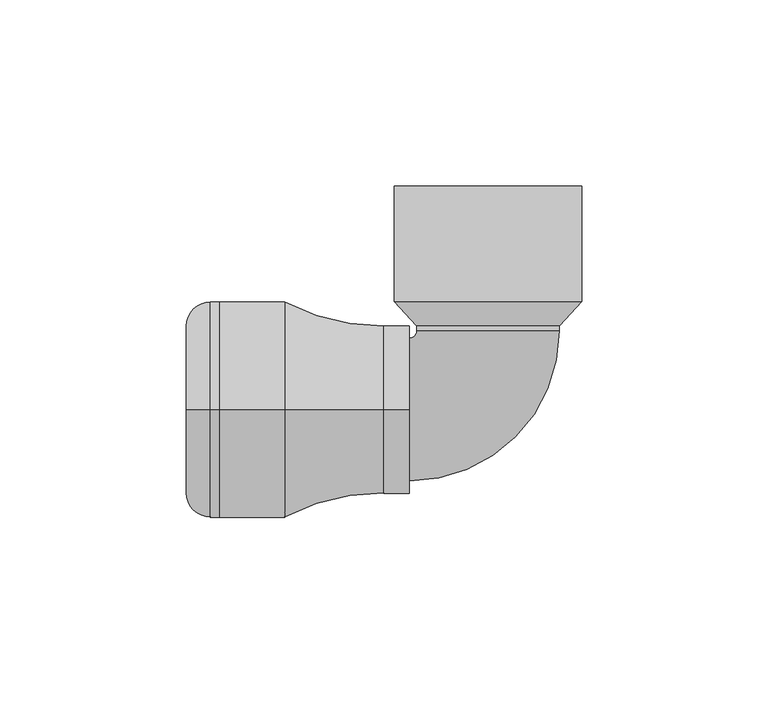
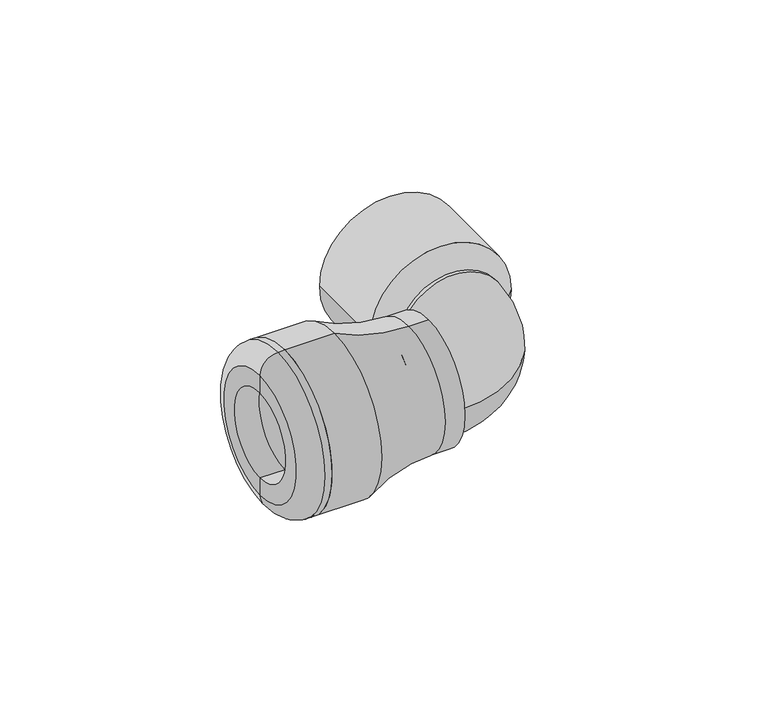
"""IFC4 building model written with IfcOpenShell, lengths in millimetres: pipe fitting geometry, Plumbing_Pipe-Fittings_Plasson_Elbow-90-with-Threaded-Brass-Female-Offtake_1076 : Plumbing_Pipe-Fittings_Plasson_Elbow-90-with-Threaded-Brass-Female-Offtake_1076."""

import ifcopenshell
import ifcopenshell.guid

model = None  # the IFC model being written
_history = None  # IfcOwnerHistory: only IFC2X3 demands one
_inside = {}  # id of a spatial element -> (the spatial element, [elements in it])
_under = {}  # id of a project, library or spatial element -> (it, [spatial elements below it])
_declared = {}  # id of a project -> (the project, [libraries it declares])
_typed = {}  # id of a type object -> (the type object, [elements of that type])
_made_of = {}  # id of a material, layer set ... -> (it, [elements and type objects made of it])


def new_model(schema):
    """Start an empty IFC model of exactly this schema.

    Asked for "IFC4X3", IfcOpenShell would pick the latest addendum, in which some entities
    have other attributes; the version numbers below select the first issue.
    IFC2X3 requires an IfcOwnerHistory on every rooted entity: one is made here for all.
    """
    global model, _history
    if schema == "IFC4X3":
        model = ifcopenshell.file(schema_version=(4, 3, 0, 0))
    else:
        model = ifcopenshell.file(schema=schema)
    _inside.clear()
    _under.clear()
    _declared.clear()
    _typed.clear()
    _made_of.clear()
    _history = None
    if model.schema == "IFC2X3":
        org = make("IfcOrganization", Name="unknown")
        user = make(
            "IfcPersonAndOrganization",
            ThePerson=make("IfcPerson", FamilyName="unknown"),
            TheOrganization=org,
        )
        app = make(
            "IfcApplication",
            ApplicationDeveloper=org,
            Version="unknown",
            ApplicationFullName="unknown",
            ApplicationIdentifier="unknown",
        )
        _history = make(
            "IfcOwnerHistory",
            OwningUser=user,
            OwningApplication=app,
            ChangeAction="ADDED",
            CreationDate=0,
        )
    return model


def make(cls, **values):
    """One entity of the class cls with the attributes given. An attribute that is None is left unset."""
    return model.create_entity(
        cls, **{name: value for name, value in values.items() if value is not None}
    )


def rooted(cls, **values):
    """An entity with a GlobalId (a new one), such as an element, a storey or a relation."""
    return make(cls, GlobalId=ifcopenshell.guid.new(), OwnerHistory=_history, **values)


def si_unit(unit_type, name, prefix=None):
    """IfcSIUnit, for example si_unit("LENGTHUNIT", "METRE", prefix="MILLI")."""
    return make("IfcSIUnit", UnitType=unit_type, Prefix=prefix, Name=name)


def assignment(units):
    """IfcUnitAssignment: the units of a project."""
    return None if units is None else make("IfcUnitAssignment", Units=units)


def point(xyz):
    """IfcCartesianPoint."""
    return None if xyz is None else make("IfcCartesianPoint", Coordinates=xyz)


def direction(xyz):
    """IfcDirection."""
    return None if xyz is None else make("IfcDirection", DirectionRatios=xyz)


def frame(location, z_axis=None, x_axis=None):
    """IfcAxis2Placement3D, a coordinate frame: its origin and axes. An axis left out is left unset."""
    return make(
        "IfcAxis2Placement3D",
        Location=point(location),
        Axis=direction(z_axis),
        RefDirection=direction(x_axis),
    )


def origin():
    """The frame at (0, 0, 0) with its axes left unset."""
    return frame((0.0, 0.0, 0.0))


def place(relative_to, where):
    """IfcLocalPlacement: puts the frame where relative to a parent placement (None: the world)."""
    return make(
        "IfcLocalPlacement", PlacementRelTo=relative_to, RelativePlacement=where
    )


def context(
    kind, dimensions, precision=None, world=None, true_north=None, identifier=None
):
    """IfcGeometricRepresentationContext, for example the 3D "Model" context."""
    return make(
        "IfcGeometricRepresentationContext",
        ContextIdentifier=identifier,
        ContextType=kind,
        CoordinateSpaceDimension=dimensions,
        Precision=precision,
        WorldCoordinateSystem=world,
        TrueNorth=true_north,
    )


def project(units=None, contexts=None):
    """IfcProject with its units and contexts."""
    return rooted(
        "IfcProject",
        Name="project",
        RepresentationContexts=contexts,
        UnitsInContext=assignment(units),
    )


def spatial(cls, under=None, at=None, **own):
    """A site, building, storey or space (cls), placed at a placement, below another one or the project."""
    s = rooted(cls, ObjectPlacement=at, **own)
    if under is not None:
        _under.setdefault(under.id(), (under, []))[1].append(s)
    return s


def polyline(points):
    """IfcPolyline through the points."""
    return make("IfcPolyline", Points=[point(p) for p in points])


def circle_curve(where, radius):
    """IfcCircle in the frame where."""
    return make("IfcCircle", Position=where, Radius=radius)


def ellipse_curve(where, semi_axis1, semi_axis2):
    """IfcEllipse in the frame where."""
    return make(
        "IfcEllipse", Position=where, SemiAxis1=semi_axis1, SemiAxis2=semi_axis2
    )


def trimmed(basis, trim1, trim2, sense, master):
    """IfcTrimmedCurve: the piece of a basis curve between two trims."""
    return make(
        "IfcTrimmedCurve",
        BasisCurve=basis,
        Trim1=trim1,
        Trim2=trim2,
        SenseAgreement=sense,
        MasterRepresentation=master,
    )


def shape(context_of_items, identifier, shape_type, items):
    """IfcShapeRepresentation: the items that make up one representation, for example the "Body"."""
    return make(
        "IfcShapeRepresentation",
        ContextOfItems=context_of_items,
        RepresentationIdentifier=identifier,
        RepresentationType=shape_type,
        Items=items,
    )


def source(mapping_origin, context_of_items, identifier, shape_type, items):
    """IfcRepresentationMap: a shape defined once, which mapped items show again and again."""
    return make(
        "IfcRepresentationMap",
        MappingOrigin=mapping_origin,
        MappedRepresentation=shape(context_of_items, identifier, shape_type, items),
    )


def transform(
    local_origin,
    x_axis=None,
    y_axis=None,
    z_axis=None,
    scale=None,
    scale2=None,
    scale3=None,
    uniform=True,
):
    """IfcCartesianTransformationOperator3D, or its non-uniform kind. x_axis, y_axis, z_axis: its Axis1, 2, 3."""
    if uniform:
        return make(
            "IfcCartesianTransformationOperator3D",
            Axis1=direction(x_axis),
            Axis2=direction(y_axis),
            LocalOrigin=point(local_origin),
            Scale=scale,
            Axis3=direction(z_axis),
        )
    return make(
        "IfcCartesianTransformationOperator3DnonUniform",
        Axis1=direction(x_axis),
        Axis2=direction(y_axis),
        LocalOrigin=point(local_origin),
        Scale=scale,
        Axis3=direction(z_axis),
        Scale2=scale2,
        Scale3=scale3,
    )


def mapped(mapping_source, mapping_target):
    """IfcMappedItem: shows the shape of a source again, moved by a transform."""
    return make(
        "IfcMappedItem", MappingSource=mapping_source, MappingTarget=mapping_target
    )


def made_of(thing, what):
    """Note that an element or type object is made of a material, layer set ...; save() writes the relation."""
    if what is not None:
        _made_of.setdefault(what.id(), (what, []))[1].append(thing)
    return thing


def element(
    cls,
    number,
    at=None,
    inside=None,
    cuts=None,
    type_object=None,
    material=None,
    context=None,
    identifier="Body",
    shape_type=None,
    held_by="IfcProductDefinitionShape",
    body=None,
    shapes=None,
    **own,
):
    """One element of the class cls, such as IfcWall. Its Tag is "e" and its number.

    at: its placement. inside: the storey or other place that contains it. cuts: it is an
    opening in that element (IfcRelVoidsElement). A single representation is given by context,
    identifier, shape_type and body (its items); several are given by shapes. held_by: the class
    of the entity that holds the representations. save() writes the other relations.
    """
    e = rooted(cls, Tag="e%d" % number, ObjectPlacement=at, **own)
    if body is not None:
        shapes = [shape(context, identifier, shape_type, body)]
    if shapes is not None:
        e.Representation = make(held_by, Representations=shapes)
    if inside is not None:
        _inside.setdefault(inside.id(), (inside, []))[1].append(e)
    if cuts is not None:
        rooted(
            "IfcRelVoidsElement", RelatingBuildingElement=cuts, RelatedOpeningElement=e
        )
    if type_object is not None:
        _typed.setdefault(type_object.id(), (type_object, []))[1].append(e)
    return made_of(e, material)


def aggregate(whole, parts):
    """IfcRelAggregates: a whole, such as a stair, and the parts it consists of."""
    return rooted("IfcRelAggregates", RelatingObject=whole, RelatedObjects=parts)


def save(model, path):
    """Write the relations noted so far, then the file.

    IfcRelAggregates (storeys below a building ...), IfcRelContainedInSpatialStructure (elements
    in a storey), IfcRelDefinesByType, IfcRelAssociatesMaterial and IfcRelDeclares: one each for
    every whole, place, type object, material and project.
    """
    for whole, parts in _under.values():
        aggregate(whole, parts)
    for where, things in _inside.values():
        rooted(
            "IfcRelContainedInSpatialStructure",
            RelatedElements=things,
            RelatingStructure=where,
        )
    for kind, things in _typed.values():
        rooted("IfcRelDefinesByType", RelatedObjects=things, RelatingType=kind)
    for what, things in _made_of.values():
        rooted("IfcRelAssociatesMaterial", RelatedObjects=things, RelatingMaterial=what)
    for by, libraries in _declared.values():
        rooted("IfcRelDeclares", RelatingContext=by, RelatedDefinitions=libraries)
    model.write(path)


def plane_surface(at):
    """IfcPlane: the flat surface through the origin of the frame at, square to its z axis."""
    return make("IfcPlane", Position=at)


def cylinder_surface(at, radius):
    """IfcCylindricalSurface: all points at the distance radius from the z axis of the frame at."""
    return make("IfcCylindricalSurface", Position=at, Radius=radius)


def revolved_surface(curve, axis_point, axis_direction):
    """IfcSurfaceOfRevolution: the curve turned about the line through axis_point along axis_direction."""
    return make(
        "IfcSurfaceOfRevolution",
        SweptCurve=make("IfcArbitraryOpenProfileDef", ProfileType="CURVE", Curve=curve),
        AxisPosition=make("IfcAxis1Placement", Location=point(axis_point), Axis=direction(axis_direction)),
    )


def advanced_brep(points, edges, surfaces, faces):
    """IfcAdvancedBrep: a solid bounded by faces that lie on surfaces and meet in shared edges.

    An edge is (start, end): straight between two places in points (the first is 0);
    or (start, end, curve); or (start, end, curve, False) where it runs against its curve.
    A face is (place in surfaces, loops), or (place, loops, False) where it looks against
    its surface's normal. A loop lists edges by number (the first is 1), with a minus sign
    where the edge is run from its end to its start. The first loop is the outer one.
    """
    corners = [point(p) for p in points]
    vertices = [make("IfcVertexPoint", VertexGeometry=c) for c in corners]
    made = []
    for start, end, *more in edges:
        made.append(
            make(
                "IfcEdgeCurve",
                EdgeStart=vertices[start],
                EdgeEnd=vertices[end],
                EdgeGeometry=more[0] if more else make("IfcPolyline", Points=[corners[start], corners[end]]),
                SameSense=more[1] if len(more) > 1 else True,
            )
        )
    hull = []
    for where, loops, *sense in faces:
        bounds = []
        for j, loop in enumerate(loops):
            ring = [make("IfcOrientedEdge", EdgeElement=made[abs(k) - 1], Orientation=k > 0) for k in loop]
            bounds.append(
                make(
                    "IfcFaceOuterBound" if j == 0 else "IfcFaceBound",
                    Bound=make("IfcEdgeLoop", EdgeList=ring),
                    Orientation=True,
                )
            )
        hull.append(make("IfcAdvancedFace", Bounds=bounds, FaceSurface=surfaces[where], SameSense=sense[0] if sense else True))
    return make("IfcAdvancedBrep", Outer=make("IfcClosedShell", CfsFaces=hull))


def pipe_fitting_2faa0685(model_context):
    return source(origin(), model_context, "Body", "AdvancedBrep", [
        advanced_brep(
        [(0.0, 60.0, -17.15), (0.0, 60.0, 17.15), (0.0, 60.0, 15.15), (0.0, 60.0, -15.15), (0.0, 41.0, -15.15), (0.0, 41.0, 15.15), (0.0, 41.0, 17.15), (0.0, 41.0, -17.15)],
        [
            (0, 1, circle_curve(frame((0.0, 60.0, 0.0), z_axis=(0.0, 1.0, 0.0), x_axis=(0.0, 0.0, 1.0)), 17.15)),
            (1, 2),
            (2, 3, circle_curve(frame((0.0, 60.0, 0.0), z_axis=(0.0, -1.0, 0.0), x_axis=(0.0, 0.0, 1.0)), 15.15)),
            (3, 0),
            (1, 0, circle_curve(frame((0.0, 60.0, 0.0), z_axis=(0.0, 1.0, 0.0), x_axis=(0.0, 0.0, 1.0)), 17.15)),
            (3, 2, circle_curve(frame((0.0, 60.0, 0.0), z_axis=(0.0, -1.0, 0.0), x_axis=(0.0, 0.0, 1.0)), 15.15)),
            (4, 5, circle_curve(frame((0.0, 41.0, 0.0), z_axis=(0.0, 1.0, 0.0), x_axis=(0.0, 0.0, 1.0)), 15.15)),
            (5, 6),
            (6, 7, circle_curve(frame((0.0, 41.0, 0.0), z_axis=(0.0, -1.0, 0.0), x_axis=(0.0, 0.0, 1.0)), 17.15)),
            (7, 4),
            (5, 4, circle_curve(frame((0.0, 41.0, 0.0), z_axis=(0.0, 1.0, 0.0), x_axis=(0.0, 0.0, 1.0)), 15.15)),
            (7, 6, circle_curve(frame((0.0, 41.0, 0.0), z_axis=(0.0, -1.0, 0.0), x_axis=(0.0, 0.0, 1.0)), 17.15)),
            (6, 1),
            (0, 7),
            (2, 5),
            (4, 3),
        ],
        [
            plane_surface(frame((0.0, 60.0, 0.0), z_axis=(0.0, 1.0, 0.0), x_axis=(0.0, 0.0, 1.0))),
            plane_surface(frame((0.0, 41.0, 0.0), z_axis=(0.0, -1.0, 0.0), x_axis=(0.0, 0.0, 1.0))),
            cylinder_surface(frame((0.0, 54.3333333, 0.0), z_axis=(0.0, -1.0, 0.0), x_axis=(0.0, 0.0, 1.0)), 17.15),
            revolved_surface(polyline([(0.0, 41.0, 15.15), (0.0, 60.0, 15.15)]), (0.0, 54.3333333, 0.0), (0.0, -1.0, 0.0)),
        ],
        [
            (0, [[1, 2, 3, 4]]),
            (0, [[5, -4, 6, -2]]),
            (1, [[7, 8, 9, 10]]),
            (1, [[11, -10, 12, -8]]),
            (2, [[-9, 13, -1, 14]]),
            (2, [[-12, -14, -5, -13]]),
            (3, [[-3, 15, -7, 16]]),
            (3, [[-6, -16, -11, -15]]),
        ],
    ),
        advanced_brep(
        [(-21.1, -19.15, 0.0), (-21.1, 19.15, 0.0), (19.15, 21.1, 0.0), (-19.15, 21.1, 0.0)],
        [
            (0, 1, circle_curve(frame((-21.1, 0.0, 0.0), z_axis=(-1.0, 0.0, 0.0), x_axis=(0.0, 1.0, 0.0)), 19.15)),
            (1, 0, circle_curve(frame((-21.1, 0.0, 0.0), z_axis=(-1.0, 0.0, 0.0), x_axis=(0.0, 1.0, 0.0)), 19.15)),
            (2, 3, circle_curve(frame((0.0, 21.1, 0.0), z_axis=(0.0, 1.0, 0.0), x_axis=(-1.0, 0.0, 0.0)), 19.15)),
            (3, 2, circle_curve(frame((0.0, 21.1, 0.0), z_axis=(0.0, 1.0, 0.0), x_axis=(-1.0, 0.0, 0.0)), 19.15)),
            (3, 1, circle_curve(frame((-21.1, 21.1, 0.0), z_axis=(0.0, 0.0, -1.0), x_axis=(0.0, -1.0, 0.0)), 1.95)),
            (0, 2, circle_curve(frame((-21.1, 21.1, 0.0), z_axis=(0.0, 0.0, 1.0), x_axis=(0.0, -1.0, 0.0)), 40.25)),
        ],
        [
            plane_surface(frame((-21.1, 0.0, 0.0), z_axis=(-1.0, 0.0, 0.0), x_axis=(0.0, 0.0, 1.0))),
            plane_surface(frame((0.0, 21.1, 0.0), z_axis=(0.0, 1.0, 0.0), x_axis=(0.0, 0.0, 1.0))),
            revolved_surface(trimmed(ellipse_curve(frame((-21.1, 0.0, 0.0), z_axis=(-1.0, 0.0, 0.0), x_axis=(0.0, 1.0, 0.0)), 19.15, 19.15), [point((-21.1, -19.15, 0.0))], [point((-21.1, 19.15, 0.0))], True, "CARTESIAN"), (-21.1, 21.1, 0.0), (0.0, 0.0, 1.0)),
            revolved_surface(trimmed(ellipse_curve(frame((-21.1, 0.0, 0.0), z_axis=(-1.0, 0.0, 0.0), x_axis=(0.0, 1.0, 0.0)), 19.15, 19.15), [point((-21.1, 19.15, 0.0))], [point((-21.1, -19.15, 0.0))], True, "CARTESIAN"), (-21.1, 21.1, 0.0), (0.0, 0.0, 1.0)),
        ],
        [
            (0, [[1, 2]]),
            (1, [[3, 4]]),
            (2, [[5, -1, 6, -4]]),
            (3, [[-6, -2, -5, -3]]),
        ],
    ),
        advanced_brep(
        [(25.15, 29.0333333, 0.0), (-25.15, 29.0333333, 0.0), (-25.15, 60.0, 0.0), (25.15, 60.0, 0.0), (-17.15, 60.0, 0.0), (17.15, 60.0, 0.0), (0.0, 21.1, 0.0), (-19.15, 21.1, 0.0), (19.15, 21.1, 0.0), (-19.15, 22.4, 0.0), (19.15, 22.4, 0.0), (17.15, 41.0, 0.0), (-17.15, 41.0, 0.0), (0.0, 41.0, 0.0)],
        [
            (0, 1, circle_curve(frame((0.0, 29.0333333, 0.0), z_axis=(0.0, 1.0, 0.0), x_axis=(-1.0, 0.0, 0.0)), 25.15)),
            (1, 2),
            (2, 3, circle_curve(frame((0.0, 60.0, 0.0), z_axis=(0.0, -1.0, 0.0), x_axis=(-1.0, 0.0, 0.0)), 25.15)),
            (3, 0),
            (1, 0, circle_curve(frame((0.0, 29.0333333, 0.0), z_axis=(0.0, 1.0, 0.0), x_axis=(-1.0, 0.0, 0.0)), 25.15)),
            (3, 2, circle_curve(frame((0.0, 60.0, 0.0), z_axis=(0.0, -1.0, 0.0), x_axis=(-1.0, 0.0, 0.0)), 25.15)),
            (2, 4),
            (4, 5, circle_curve(frame((0.0, 60.0, 0.0), z_axis=(0.0, -1.0, 0.0), x_axis=(-1.0, 0.0, 0.0)), 17.15)),
            (5, 3),
            (5, 4, circle_curve(frame((0.0, 60.0, 0.0), z_axis=(0.0, -1.0, 0.0), x_axis=(-1.0, 0.0, 0.0)), 17.15)),
            (6, 7),
            (7, 8, circle_curve(frame((0.0, 21.1, 0.0), z_axis=(0.0, -1.0, 0.0), x_axis=(-1.0, 0.0, 0.0)), 19.15)),
            (8, 6),
            (8, 7, circle_curve(frame((0.0, 21.1, 0.0), z_axis=(0.0, -1.0, 0.0), x_axis=(-1.0, 0.0, 0.0)), 19.15)),
            (7, 9),
            (9, 10, circle_curve(frame((0.0, 22.4, 0.0), z_axis=(0.0, -1.0, 0.0), x_axis=(-1.0, 0.0, 0.0)), 19.15)),
            (10, 8),
            (10, 9, circle_curve(frame((0.0, 22.4, 0.0), z_axis=(0.0, -1.0, 0.0), x_axis=(-1.0, 0.0, 0.0)), 19.15)),
            (9, 1),
            (0, 10),
            (11, 12, circle_curve(frame((0.0, 41.0, 0.0), z_axis=(0.0, 1.0, 0.0), x_axis=(-1.0, 0.0, 0.0)), 17.15)),
            (12, 13),
            (13, 11),
            (12, 11, circle_curve(frame((0.0, 41.0, 0.0), z_axis=(0.0, 1.0, 0.0), x_axis=(-1.0, 0.0, 0.0)), 17.15)),
            (4, 12),
            (11, 5),
        ],
        [
            cylinder_surface(frame((0.0, 42.1666667, 0.0), z_axis=(0.0, -1.0, 0.0), x_axis=(-1.0, 0.0, 0.0)), 25.15),
            plane_surface(frame((0.0, 60.0, 0.0), z_axis=(0.0, 1.0, 0.0), x_axis=(-1.0, 0.0, 0.0))),
            plane_surface(frame((0.0, 21.1, 0.0), z_axis=(0.0, -1.0, 0.0), x_axis=(-1.0, 0.0, 0.0))),
            cylinder_surface(frame((0.0, 42.1666667, 0.0), z_axis=(0.0, -1.0, 0.0), x_axis=(-1.0, 0.0, 0.0)), 19.15),
            revolved_surface(polyline([(-25.15, 29.0333333, 0.0), (-19.15, 22.4, 0.0)]), (0.0, 42.1666667, 0.0), (0.0, -1.0, 0.0)),
            plane_surface(frame((0.0, 41.0, 0.0), z_axis=(0.0, 1.0, 0.0), x_axis=(-1.0, 0.0, 0.0))),
            revolved_surface(polyline([(-17.15, 41.0, 0.0), (-17.15, 60.0, 0.0)]), (0.0, 42.1666667, 0.0), (0.0, -1.0, 0.0)),
        ],
        [
            (0, [[1, 2, 3, 4]]),
            (0, [[5, -4, 6, -2]]),
            (1, [[-3, 7, 8, 9]]),
            (1, [[-6, -9, 10, -7]]),
            (2, [[11, 12, 13]]),
            (2, [[-13, 14, -11]]),
            (3, [[-12, 15, 16, 17]]),
            (3, [[-14, -17, 18, -15]]),
            (4, [[-16, 19, -1, 20]]),
            (4, [[-18, -20, -5, -19]]),
            (5, [[21, 22, 23]]),
            (5, [[24, -23, -22]]),
            (6, [[-8, 25, -21, 26]]),
            (6, [[-10, -26, -24, -25]]),
        ],
    ),
        advanced_brep(
        [(-72.1666667, 0.0, -29.0), (-72.1666667, 0.0, 29.0), (-72.1666667, 0.0, 16.0), (-72.1666667, 0.0, -16.0), (-74.5, 0.0, -29.0), (-74.5, 0.0, 29.0), (-81.0, 0.0, -22.5), (-81.0, 0.0, 22.5), (-81.0, 0.0, -16.0), (-81.0, 0.0, 16.0)],
        [
            (0, 1, circle_curve(frame((-72.1666667, 0.0, 0.0), z_axis=(1.0, 0.0, 0.0), x_axis=(0.0, 0.0, 1.0)), 29.0)),
            (1, 2),
            (2, 3, circle_curve(frame((-72.1666667, 0.0, 0.0), z_axis=(-1.0, 0.0, 0.0), x_axis=(0.0, 0.0, 1.0)), 16.0)),
            (3, 0),
            (1, 0, circle_curve(frame((-72.1666667, 0.0, 0.0), z_axis=(1.0, 0.0, 0.0), x_axis=(0.0, 0.0, 1.0)), 29.0)),
            (3, 2, circle_curve(frame((-72.1666667, 0.0, 0.0), z_axis=(-1.0, 0.0, 0.0), x_axis=(0.0, 0.0, 1.0)), 16.0)),
            (4, 5, circle_curve(frame((-74.5, 0.0, 0.0), z_axis=(1.0, 0.0, 0.0), x_axis=(0.0, 0.0, 1.0)), 29.0)),
            (5, 1),
            (0, 4),
            (5, 4, circle_curve(frame((-74.5, 0.0, 0.0), z_axis=(1.0, 0.0, 0.0), x_axis=(0.0, 0.0, 1.0)), 29.0)),
            (6, 7, circle_curve(frame((-81.0, 0.0, 0.0), z_axis=(1.0, 0.0, 0.0), x_axis=(0.0, 0.0, 1.0)), 22.5)),
            (7, 5, circle_curve(frame((-74.5, 0.0, 22.5), z_axis=(0.0, 1.0, 0.0), x_axis=(1.0, 0.0, 0.0)), 6.5)),
            (4, 6, circle_curve(frame((-74.5, 0.0, -22.5), z_axis=(0.0, 1.0, 0.0), x_axis=(1.0, 0.0, 0.0)), 6.5)),
            (7, 6, circle_curve(frame((-81.0, 0.0, 0.0), z_axis=(1.0, 0.0, 0.0), x_axis=(0.0, 0.0, 1.0)), 22.5)),
            (8, 9, circle_curve(frame((-81.0, 0.0, 0.0), z_axis=(1.0, 0.0, 0.0), x_axis=(0.0, 0.0, 1.0)), 16.0)),
            (9, 7),
            (6, 8),
            (9, 8, circle_curve(frame((-81.0, 0.0, 0.0), z_axis=(1.0, 0.0, 0.0), x_axis=(0.0, 0.0, 1.0)), 16.0)),
            (2, 9),
            (8, 3),
        ],
        [
            plane_surface(frame((-72.1666667, 0.0, 0.0), z_axis=(1.0, 0.0, 0.0), x_axis=(0.0, 0.0, 1.0))),
            cylinder_surface(frame((-86.0, 0.0, 0.0), z_axis=(-1.0, 0.0, 0.0), x_axis=(0.0, 0.0, 1.0)), 29.0),
            revolved_surface(trimmed(ellipse_curve(frame((-74.5, 0.0, 22.5), z_axis=(0.0, -1.0, 0.0), x_axis=(1.0, 0.0, 0.0)), 6.5, 6.5), [point((-74.5, 0.0, 29.0))], [point((-81.0, 0.0, 22.5))], True, "CARTESIAN"), (-86.0, 0.0, 0.0), (-1.0, 0.0, 0.0)),
            plane_surface(frame((-81.0, 0.0, 0.0), z_axis=(-1.0, 0.0, 0.0), x_axis=(0.0, 0.0, 1.0))),
            revolved_surface(polyline([(-81.0, 0.0, 16.0), (-72.1666667, 0.0, 16.0)]), (-86.0, 0.0, 0.0), (-1.0, 0.0, 0.0)),
        ],
        [
            (0, [[1, 2, 3, 4]]),
            (0, [[5, -4, 6, -2]]),
            (1, [[7, 8, -1, 9]]),
            (1, [[10, -9, -5, -8]]),
            (2, [[11, 12, -7, 13]]),
            (2, [[14, -13, -10, -12]]),
            (3, [[15, 16, -11, 17]]),
            (3, [[18, -17, -14, -16]]),
            (4, [[-3, 19, -15, 20]]),
            (4, [[-6, -20, -18, -19]]),
        ],
    ),
        advanced_brep(
        [(-72.1666667, 0.0, -16.0), (-72.1666667, 0.0, 16.0), (-72.1666667, 0.0, 29.0), (-72.1666667, 0.0, -29.0), (-28.0, 0.0, -16.0), (-28.0, 0.0, 16.0), (-28.0, 0.0, 0.0), (-54.5, 0.0, 29.0), (-54.5, 0.0, -29.0), (-21.1, 0.0, -22.5), (-21.1, 0.0, 22.5), (-21.1, 0.0, 0.0), (-28.0, 0.0, -22.5), (-28.0, 0.0, 22.5)],
        [
            (0, 1, circle_curve(frame((-72.1666667, 0.0, 0.0), z_axis=(1.0, 0.0, 0.0), x_axis=(0.0, 0.0, 1.0)), 16.0)),
            (1, 2),
            (2, 3, circle_curve(frame((-72.1666667, 0.0, 0.0), z_axis=(-1.0, 0.0, 0.0), x_axis=(0.0, 0.0, 1.0)), 29.0)),
            (3, 0),
            (1, 0, circle_curve(frame((-72.1666667, 0.0, 0.0), z_axis=(1.0, 0.0, 0.0), x_axis=(0.0, 0.0, 1.0)), 16.0)),
            (3, 2, circle_curve(frame((-72.1666667, 0.0, 0.0), z_axis=(-1.0, 0.0, 0.0), x_axis=(0.0, 0.0, 1.0)), 29.0)),
            (4, 5, circle_curve(frame((-28.0, 0.0, 0.0), z_axis=(1.0, 0.0, 0.0), x_axis=(0.0, 0.0, 1.0)), 16.0)),
            (5, 1),
            (0, 4),
            (5, 4, circle_curve(frame((-28.0, 0.0, 0.0), z_axis=(1.0, 0.0, 0.0), x_axis=(0.0, 0.0, 1.0)), 16.0)),
            (6, 5),
            (4, 6),
            (2, 7),
            (7, 8, circle_curve(frame((-54.5, 0.0, 0.0), z_axis=(-1.0, 0.0, 0.0), x_axis=(0.0, 0.0, 1.0)), 29.0)),
            (8, 3),
            (8, 7, circle_curve(frame((-54.5, 0.0, 0.0), z_axis=(-1.0, 0.0, 0.0), x_axis=(0.0, 0.0, 1.0)), 29.0)),
            (9, 10, circle_curve(frame((-21.1, 0.0, 0.0), z_axis=(1.0, 0.0, 0.0), x_axis=(0.0, 0.0, 1.0)), 22.5)),
            (10, 11),
            (11, 9),
            (10, 9, circle_curve(frame((-21.1, 0.0, 0.0), z_axis=(1.0, 0.0, 0.0), x_axis=(0.0, 0.0, 1.0)), 22.5)),
            (12, 13, circle_curve(frame((-28.0, 0.0, 0.0), z_axis=(1.0, 0.0, 0.0), x_axis=(0.0, 0.0, 1.0)), 22.5)),
            (13, 10),
            (9, 12),
            (13, 12, circle_curve(frame((-28.0, 0.0, 0.0), z_axis=(1.0, 0.0, 0.0), x_axis=(0.0, 0.0, 1.0)), 22.5)),
            (7, 13, circle_curve(frame((-28.0, 0.0, 79.7692308), z_axis=(0.0, -1.0, 0.0), x_axis=(1.0, 0.0, 0.0)), 57.2692308)),
            (12, 8, circle_curve(frame((-28.0, 0.0, -79.7692308), z_axis=(0.0, -1.0, 0.0), x_axis=(1.0, 0.0, 0.0)), 57.2692308)),
        ],
        [
            plane_surface(frame((-72.1666667, 0.0, 0.0), z_axis=(-1.0, 0.0, 0.0), x_axis=(0.0, 0.0, 1.0))),
            revolved_surface(polyline([(-72.1666667, 0.0, 16.0), (-28.0, 0.0, 16.0)]), (-72.1666667, 0.0, 0.0), (-1.0, 0.0, 0.0)),
            plane_surface(frame((-28.0, 0.0, 0.0), z_axis=(-1.0, 0.0, 0.0), x_axis=(0.0, 0.0, 1.0))),
            cylinder_surface(frame((-72.1666667, 0.0, 0.0), z_axis=(-1.0, 0.0, 0.0), x_axis=(0.0, 0.0, 1.0)), 29.0),
            plane_surface(frame((-21.1, 0.0, 0.0), z_axis=(1.0, 0.0, 0.0), x_axis=(0.0, 0.0, 1.0))),
            cylinder_surface(frame((-72.1666667, 0.0, 0.0), z_axis=(-1.0, 0.0, 0.0), x_axis=(0.0, 0.0, 1.0)), 22.5),
            revolved_surface(trimmed(ellipse_curve(frame((-28.0, 0.0, 79.7692308), z_axis=(0.0, 1.0, 0.0), x_axis=(1.0, 0.0, 0.0)), 57.2692308, 57.2692308), [point((-28.0, 0.0, 22.5))], [point((-54.5, 0.0, 29.0))], True, "CARTESIAN"), (-72.1666667, 0.0, 0.0), (-1.0, 0.0, 0.0)),
        ],
        [
            (0, [[1, 2, 3, 4]]),
            (0, [[5, -4, 6, -2]]),
            (1, [[7, 8, -1, 9]]),
            (1, [[10, -9, -5, -8]]),
            (2, [[11, -7, 12]]),
            (2, [[-12, -10, -11]]),
            (3, [[-3, 13, 14, 15]]),
            (3, [[-6, -15, 16, -13]]),
            (4, [[17, 18, 19]]),
            (4, [[20, -19, -18]]),
            (5, [[21, 22, -17, 23]]),
            (5, [[24, -23, -20, -22]]),
            (6, [[-14, 25, -21, 26]]),
            (6, [[-16, -26, -24, -25]]),
        ],
    ),
    ])


if __name__ == "__main__":
    model = new_model("IFC4")
    model_context = context("Model", 3, world=origin())
    ifc_project = project(units=[si_unit("LENGTHUNIT", "METRE", prefix="MILLI")], contexts=[model_context])
    site = spatial("IfcSite", under=ifc_project)
    building = spatial("IfcBuilding", under=site)
    placement = place(None, origin())
    pipe_fitting_shape = pipe_fitting_2faa0685(model_context)
    element("IfcPipeFitting", 1, ObjectType="Plumbing_Pipe-Fittings_Plasson_Elbow-90-with-Threaded-Brass-Female-Offtake_1076 : Plumbing_Pipe-Fittings_Plasson_Elbow-90-with-Threaded-Brass-Female-Offtake_1076", at=placement, inside=building, context=model_context, shape_type="MappedRepresentation", body=[
        mapped(pipe_fitting_shape, transform((0.0, 0.0, 0.0), x_axis=(1.0, 0.0, 0.0), y_axis=(0.0, 1.0, 0.0), z_axis=(0.0, 0.0, 1.0))),
    ])
    save(model, "model.ifc")
